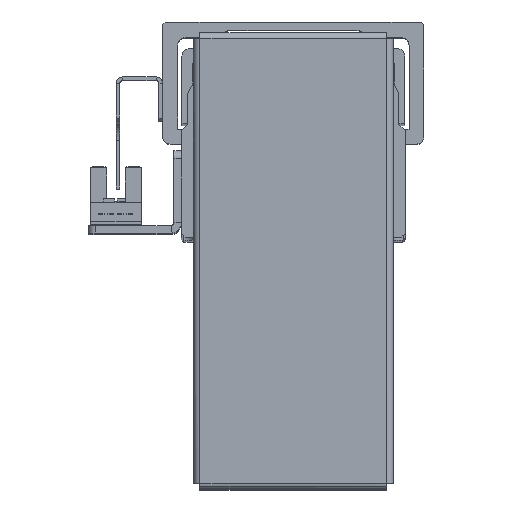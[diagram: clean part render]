
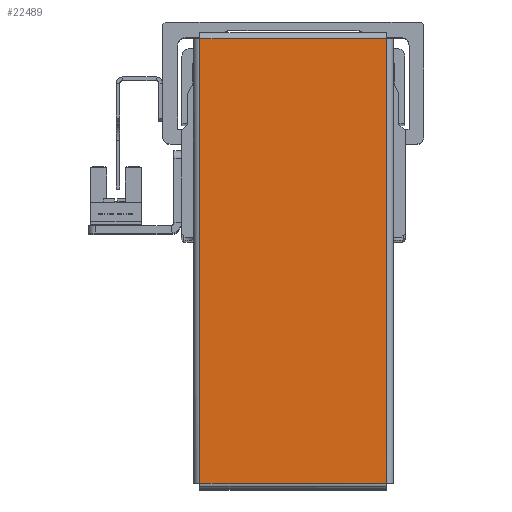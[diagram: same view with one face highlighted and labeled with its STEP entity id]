
A CAD part, top view. The second image highlights one B-rep face of the part: STEP entity #22489.
In plain terms, the highlighted planar face has unit normal (0, 0, 1) as drawn and (0, 0, -1) by its records, which use the part's own axes.
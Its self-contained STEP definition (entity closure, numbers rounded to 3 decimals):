
#128 = EDGE_LOOP ( 'NONE', ( #8428, #8505, #8430, #8419 ) ) ;
#7433 = VERTEX_POINT ( 'NONE', #30538 ) ;
#7466 = VERTEX_POINT ( 'NONE', #30631 ) ;
#7469 = VERTEX_POINT ( 'NONE', #30632 ) ;
#7526 = VERTEX_POINT ( 'NONE', #30669 ) ;
#8419 = ORIENTED_EDGE ( 'NONE', *, *, #28128, .T. ) ;
#8428 = ORIENTED_EDGE ( 'NONE', *, *, #28144, .T. ) ;
#8430 = ORIENTED_EDGE ( 'NONE', *, *, #28106, .T. ) ;
#8505 = ORIENTED_EDGE ( 'NONE', *, *, #28149, .T. ) ;
#14268 = FACE_OUTER_BOUND ( 'NONE', #128, .T. ) ;
#14907 = DIRECTION ( 'NONE',  ( 0., 0., 1. ) ) ;
#14912 = DIRECTION ( 'NONE',  ( 1., 0., 0. ) ) ;
#14921 = PLANE ( 'NONE',  #24574 ) ;
#14947 = CARTESIAN_POINT ( 'NONE',  ( 0., 0., -1. ) ) ;
#20179 = LINE ( 'NONE', #21769, #20210 ) ;
#20210 = VECTOR ( 'NONE', #21723, 1000. ) ;
#20221 = VECTOR ( 'NONE', #21973, 1000. ) ;
#20251 = LINE ( 'NONE', #21900, #20221 ) ;
#20307 = LINE ( 'NONE', #22034, #20333 ) ;
#20333 = VECTOR ( 'NONE', #22058, 1000. ) ;
#20340 = VECTOR ( 'NONE', #22030, 1000. ) ;
#20373 = LINE ( 'NONE', #21984, #20340 ) ;
#21723 = DIRECTION ( 'NONE',  ( 0., 1., 0. ) ) ;
#21769 = CARTESIAN_POINT ( 'NONE',  ( -59.513, -25.043, -1. ) ) ;
#21900 = CARTESIAN_POINT ( 'NONE',  ( -59.543, 25.013, -1. ) ) ;
#21973 = DIRECTION ( 'NONE',  ( 1., 0., 0. ) ) ;
#21984 = CARTESIAN_POINT ( 'NONE',  ( 59.543, -25.013, -1. ) ) ;
#22030 = DIRECTION ( 'NONE',  ( -1., 0., 0. ) ) ;
#22034 = CARTESIAN_POINT ( 'NONE',  ( 59.513, 25.043, -1. ) ) ;
#22058 = DIRECTION ( 'NONE',  ( 0., -1., 0. ) ) ;
#22489 = ADVANCED_FACE ( 'NONE', ( #14268 ), #14921, .F. ) ;
#24574 = AXIS2_PLACEMENT_3D ( 'NONE', #14947, #14907, #14912 ) ;
#28106 = EDGE_CURVE ( 'NONE', #7469, #7526, #20179, .T. ) ;
#28128 = EDGE_CURVE ( 'NONE', #7526, #7433, #20251, .T. ) ;
#28144 = EDGE_CURVE ( 'NONE', #7433, #7466, #20307, .T. ) ;
#28149 = EDGE_CURVE ( 'NONE', #7466, #7469, #20373, .T. ) ;
#30538 = CARTESIAN_POINT ( 'NONE',  ( 59.513, 25.013, -1. ) ) ;
#30631 = CARTESIAN_POINT ( 'NONE',  ( 59.513, -25.013, -1. ) ) ;
#30632 = CARTESIAN_POINT ( 'NONE',  ( -59.513, -25.013, -1. ) ) ;
#30669 = CARTESIAN_POINT ( 'NONE',  ( -59.513, 25.013, -1. ) ) ;
